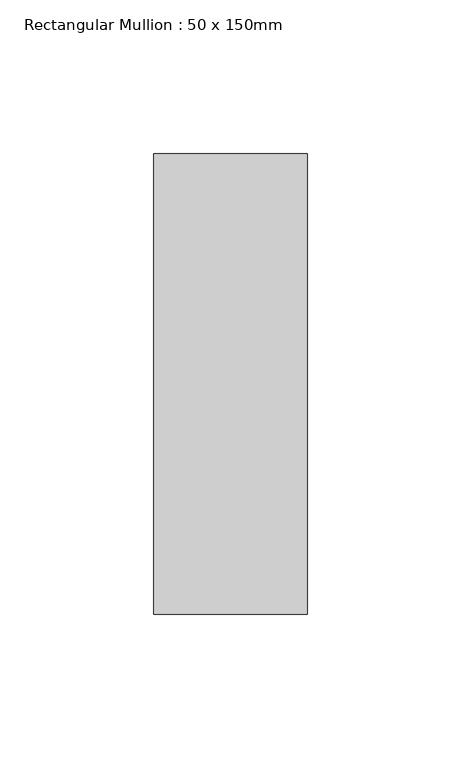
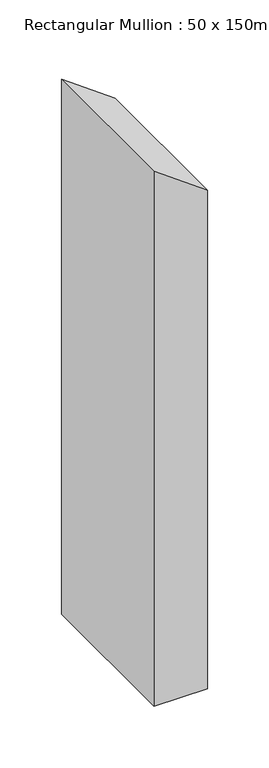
"""IFC4 building model written with IfcOpenShell, lengths in millimetres: member geometry, Rectangular Mullion : 50 x 150mm."""

from ifc_helpers import new_model, si_unit, frame, origin, place, context, project, spatial, polyline, outline, extrude, source, transform, mapped, element, save


def rectangular_mullion_50_x_150mm_ba6a34b9(model_context):
    return source(origin(), model_context, "Body", "SweptSolid", [
        extrude(outline(polyline([(-79.9669621, 25.0), (-43.6398357, -25.0), (-572.590061, -25.0), (-572.590061, 25.0), (-79.9669621, 25.0)])), frame((0.0, -75.0, 0.0), z_axis=(0.0, 1.0, 0.0), x_axis=(0.0, 0.0, 1.0)), (0.0, 0.0, 1.0), 150.0),
    ])


if __name__ == "__main__":
    model = new_model("IFC4")
    model_context = context("Model", 3, world=origin())
    ifc_project = project(units=[si_unit("LENGTHUNIT", "METRE", prefix="MILLI")], contexts=[model_context])
    site = spatial("IfcSite", under=ifc_project)
    building = spatial("IfcBuilding", under=site)
    placement = place(None, origin())
    rectangular_mullion_50_x_150mm_shape = rectangular_mullion_50_x_150mm_ba6a34b9(model_context)
    element("IfcMember", 1, ObjectType="Rectangular Mullion : 50 x 150mm", at=placement, inside=building, context=model_context, shape_type="MappedRepresentation", body=[
        mapped(rectangular_mullion_50_x_150mm_shape, transform((0.0, 0.0, 0.0), x_axis=(1.0, 0.0, 0.0), y_axis=(0.0, 1.0, 0.0), z_axis=(0.0, 0.0, 1.0))),
    ])
    save(model, "model.ifc")
